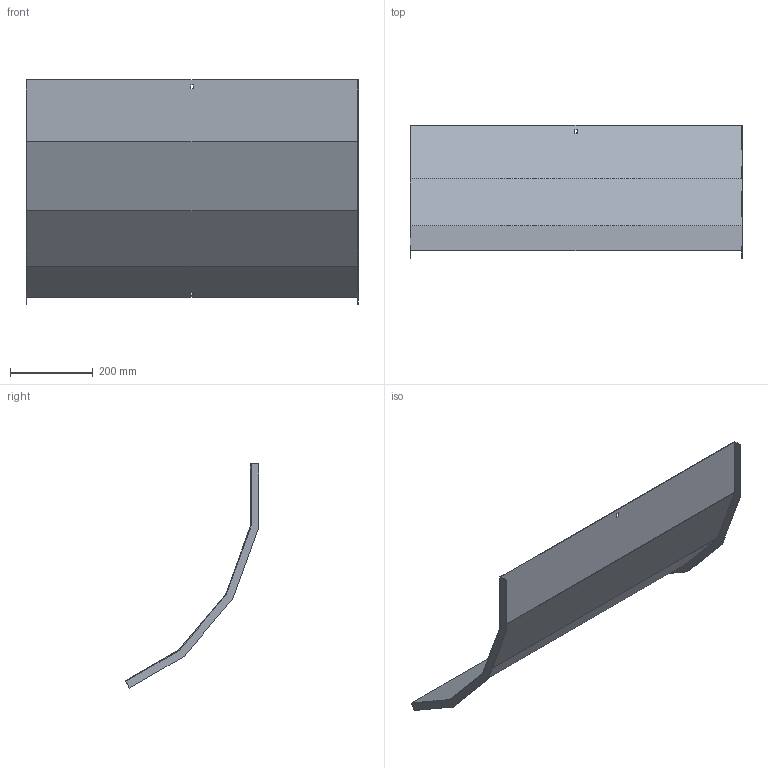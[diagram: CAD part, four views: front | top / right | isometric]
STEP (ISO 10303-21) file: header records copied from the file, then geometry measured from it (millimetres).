
FILE_DESCRIPTION (( 'STEP AP214' ), '1' );
FILE_NAME ('A2X40N5R800X.step', '2025-03-20T09:44:19', ( '' ), ( '' ), 'SwSTEP 2.0', 'SolidWorks 2023', '' );
FILE_SCHEMA (( 'AUTOMOTIVE_DESIGN' ));
Length unit declared in the file: millimetre
Products named in the file (1): A2X40N5R800X
Bounding box: 803 x 322.96 x 542.06 mm (x, y, z)
Volume: 822175.4 mm3; surface area: 1100862.2 mm2
Topology: 1 solids, 1 shells, 30 faces, 84 edges, 56 vertices
Faces by surface type: plane 30
Entity records: 979 total; most frequent: CARTESIAN_POINT 171, ORIENTED_EDGE 168, DIRECTION 146, LINE 84, EDGE_CURVE 84, VECTOR 84, VERTEX_POINT 56, EDGE_LOOP 34
